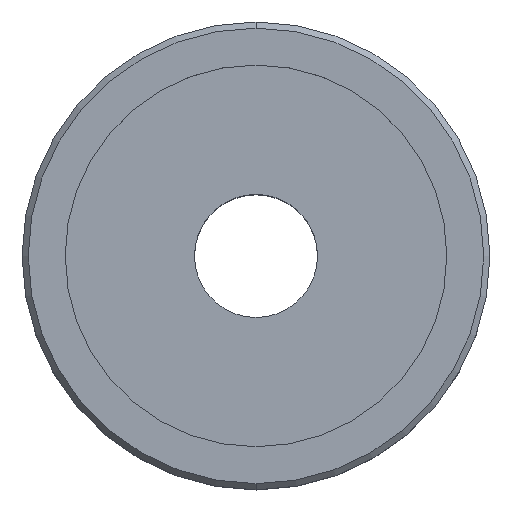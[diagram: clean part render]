
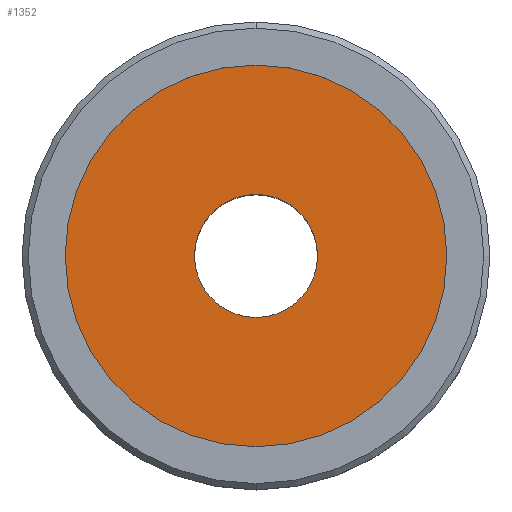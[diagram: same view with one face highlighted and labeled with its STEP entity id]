
A CAD part, top view. The second image highlights one B-rep face of the part: STEP entity #1352.
In plain terms, the highlighted planar face has unit normal (0, 0, 1).
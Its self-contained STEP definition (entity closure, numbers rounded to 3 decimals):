
#286=CARTESIAN_POINT('',(0.,0.,23.5));
#287=DIRECTION('',(0.,0.,-1.));
#288=DIRECTION('',(-1.,0.,0.));
#289=AXIS2_PLACEMENT_3D('',#286,#287,#288);
#291=CARTESIAN_POINT('',(0.,0.,23.5));
#292=DIRECTION('',(0.,0.,-1.));
#293=DIRECTION('',(1.,0.,0.));
#294=AXIS2_PLACEMENT_3D('',#291,#292,#293);
#296=CARTESIAN_POINT('',(0.,0.,23.5));
#297=DIRECTION('',(0.,0.,1.));
#298=DIRECTION('',(-1.,0.,0.));
#299=AXIS2_PLACEMENT_3D('',#296,#297,#298);
#301=CARTESIAN_POINT('',(0.,0.,23.5));
#302=DIRECTION('',(0.,0.,1.));
#303=DIRECTION('',(1.,0.,0.));
#304=AXIS2_PLACEMENT_3D('',#301,#302,#303);
#814=CARTESIAN_POINT('',(-5.,0.,23.5));
#815=CARTESIAN_POINT('',(5.,0.,23.5));
#816=VERTEX_POINT('',#814);
#817=VERTEX_POINT('',#815);
#818=CARTESIAN_POINT('',(-17.,0.,23.5));
#819=CARTESIAN_POINT('',(17.,0.,23.5));
#820=VERTEX_POINT('',#818);
#821=VERTEX_POINT('',#819);
#1337=CARTESIAN_POINT('',(0.,0.,23.5));
#1338=DIRECTION('',(0.,0.,1.));
#1339=DIRECTION('',(-1.,0.,0.));
#1340=AXIS2_PLACEMENT_3D('',#1337,#1338,#1339);
#1341=PLANE('',#1340);
#1343=ORIENTED_EDGE('',*,*,#1342,.F.);
#1345=ORIENTED_EDGE('',*,*,#1344,.F.);
#1346=EDGE_LOOP('',(#1343,#1345));
#1347=FACE_OUTER_BOUND('',#1346,.F.);
#1348=ORIENTED_EDGE('',*,*,#1317,.F.);
#1349=ORIENTED_EDGE('',*,*,#1331,.F.);
#1350=EDGE_LOOP('',(#1348,#1349));
#1351=FACE_BOUND('',#1350,.F.);
#290=CIRCLE('',#289,5.);
#295=CIRCLE('',#294,5.);
#300=CIRCLE('',#299,17.);
#305=CIRCLE('',#304,17.);
#1317=EDGE_CURVE('',#816,#817,#290,.T.);
#1331=EDGE_CURVE('',#817,#816,#295,.T.);
#1342=EDGE_CURVE('',#820,#821,#300,.T.);
#1344=EDGE_CURVE('',#821,#820,#305,.T.);
#1352=ADVANCED_FACE('',(#1347,#1351),#1341,.T.);
